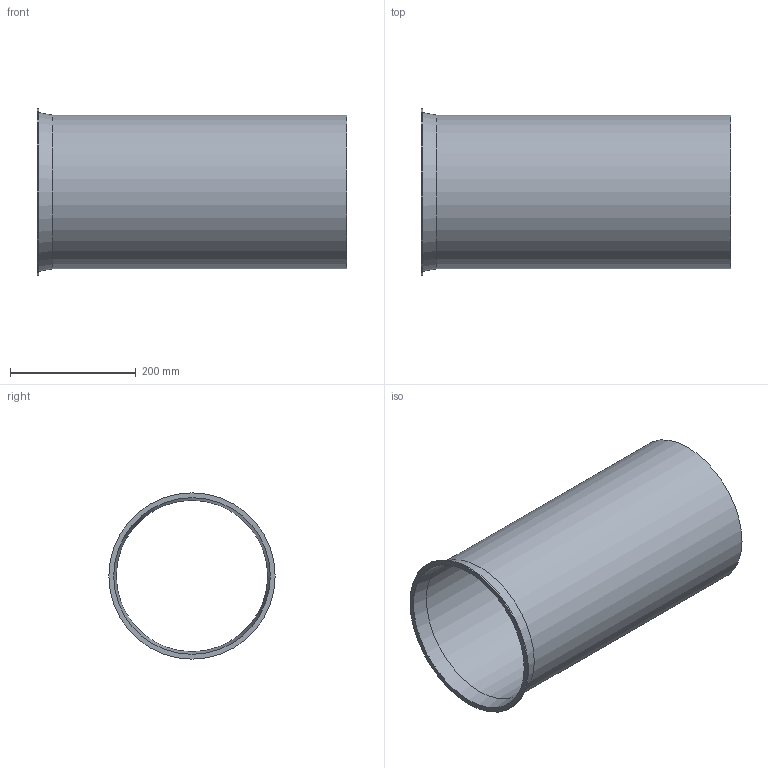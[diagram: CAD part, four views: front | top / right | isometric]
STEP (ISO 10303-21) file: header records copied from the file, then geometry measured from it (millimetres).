
FILE_DESCRIPTION((''),'2;1');
FILE_NAME('U:\Wolfgang\Marcel-3D\fertig\Kapitel 1\2511007.stp','2010-05-31T11:35:02',('TK2'),(''),'Autodesk Inventor 2010','Autodesk Inventor 2010','');
FILE_SCHEMA(('AUTOMOTIVE_DESIGN { 1 0 10303 214 1 1 1 1 }'));
Length unit declared in the file: millimetre
Products named in the file (1): 2511007
Bounding box: 493 x 265 x 265 mm (x, y, z)
Volume: 763466.1 mm3; surface area: 766647.1 mm2
Topology: 1 solids, 1 shells, 8 faces, 14 edges, 9 vertices
Faces by surface type: cylinder 3, plane 3, cone 2
Full cylindrical faces by diameter (mm): 241 x1, 245 x1, 265 x1
Entity records: 194 total; most frequent: DIRECTION 34, CARTESIAN_POINT 25, AXIS2_PLACEMENT_3D 17, ORIENTED_EDGE 16, EDGE_LOOP 16, VERTEX_POINT 8, CIRCLE 8, EDGE_CURVE 8
